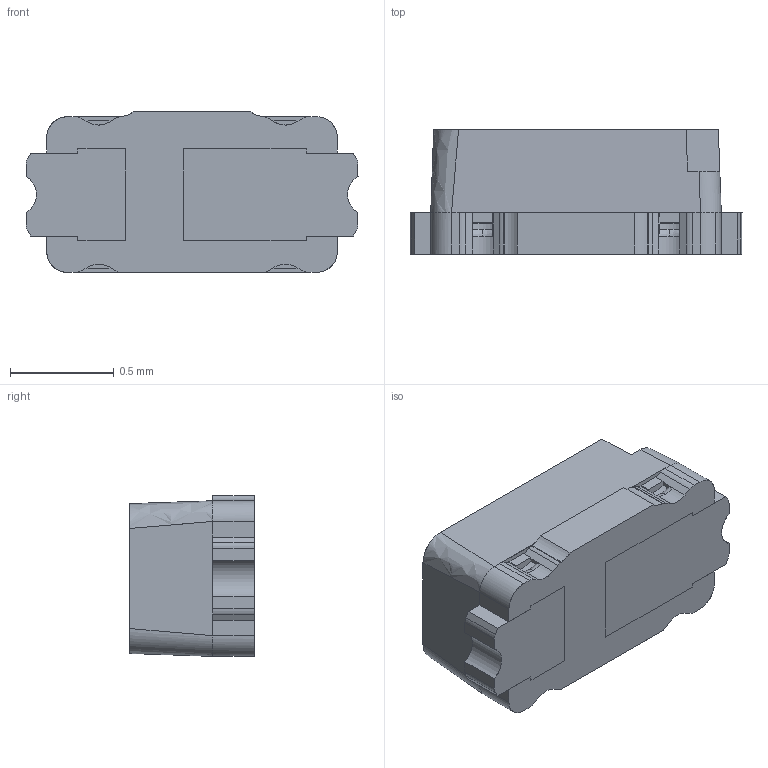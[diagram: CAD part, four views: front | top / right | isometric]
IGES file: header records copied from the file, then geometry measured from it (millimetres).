
Start section: SolidWorks IGES file using analytic representation for surfaces
Global section: file name: D:\JackChen\桌面\1608.IGS,1; native system: 5HSolidWorks 2018; preprocessor: SolidWorks 2018; author: JackChen; date: 190114.144400; units: millimetre
Bounding box: 1.6 x 0.6 x 0.78 mm (x, y, z)
Surface area: 10.6 mm2 (no closed solid volume)
Topology: 0 solids, 0 shells, 273 faces, 1620 edges, 1616 vertices
Faces by surface type: bspline 207, revolution 66
